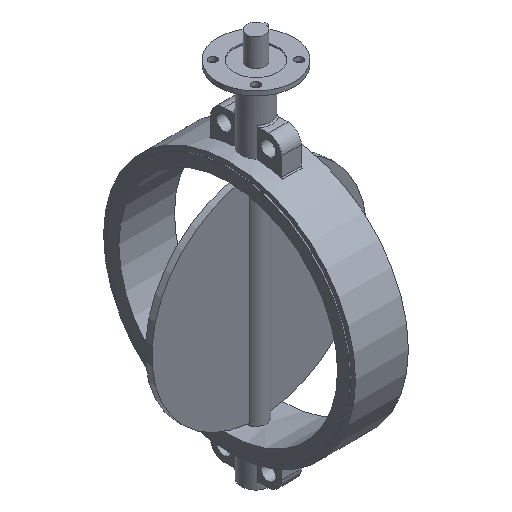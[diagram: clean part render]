
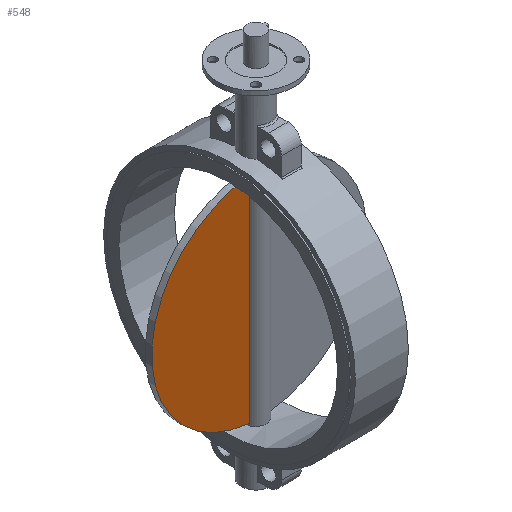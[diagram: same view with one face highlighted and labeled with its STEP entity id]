
A CAD part, isometric view. The second image highlights one B-rep face of the part: STEP entity #548.
In plain terms, the highlighted planar face has unit normal (0, -1, 0).
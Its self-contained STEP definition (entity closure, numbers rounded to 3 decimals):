
#548=ADVANCED_FACE('',(#1309),#1311,.T.);
#1309=FACE_BOUND('',#1310,.T.);
#1310=EDGE_LOOP('',(#1842,#1843));
#1311=PLANE('',#1312);
#1312=AXIS2_PLACEMENT_3D('',#1313,#1314,#1315);
#1313=CARTESIAN_POINT('',(0.,-7.5,0.));
#1314=DIRECTION('',(0.,-1.,0.));
#1315=DIRECTION('',(0.,0.,1.));
#1842=ORIENTED_EDGE('',*,*,#2088,.T.);
#1843=ORIENTED_EDGE('',*,*,#2121,.T.);
#2088=EDGE_CURVE('',#2380,#2377,#2381,.F.);
#2121=EDGE_CURVE('',#2377,#2380,#2424,.T.);
#2377=VERTEX_POINT('',#3943);
#2380=VERTEX_POINT('',#3987);
#2381=LINE('',#3988,#3989);
#2424=CIRCLE('',#4148,245.82);
#3943=CARTESIAN_POINT('',(-22.798,-7.5,244.761));
#3987=CARTESIAN_POINT('',(-22.798,-7.5,-244.761));
#3988=CARTESIAN_POINT('',(-22.798,-7.5,244.761));
#3989=VECTOR('',#3990,1.);
#3990=DIRECTION('',(0.,0.,-1.));
#4148=AXIS2_PLACEMENT_3D('',#4149,#4150,#4151);
#4149=CARTESIAN_POINT('',(0.,-7.5,0.));
#4150=DIRECTION('',(0.,-1.,0.));
#4151=DIRECTION('',(-0.093,0.,0.996));
